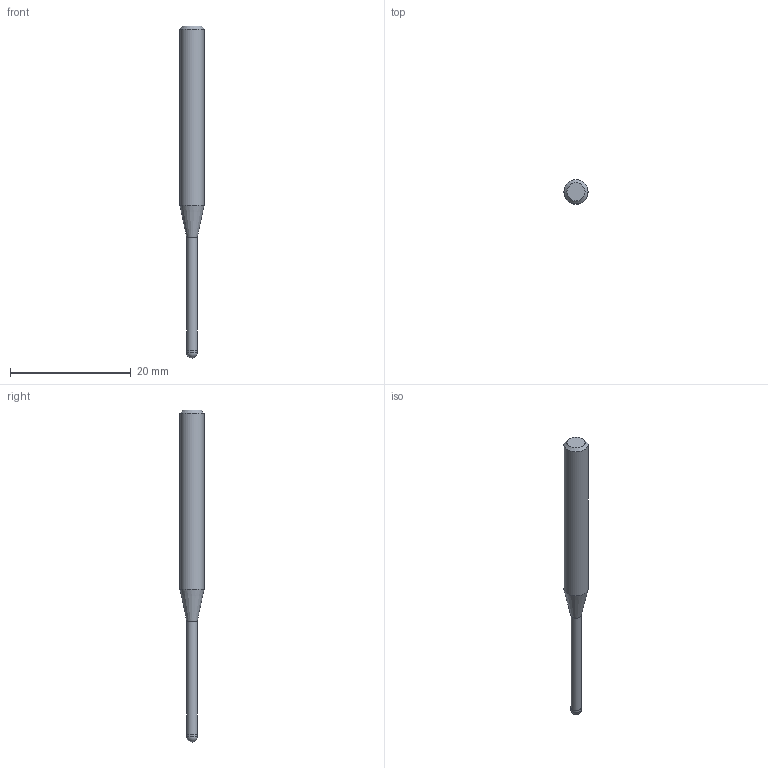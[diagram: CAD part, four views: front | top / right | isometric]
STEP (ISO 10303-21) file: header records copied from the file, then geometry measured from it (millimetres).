
FILE_DESCRIPTION((''),'2;1');
FILE_NAME('C:\Users\nsx150\AppData\Local\Temp\Mastercam 2021\3SYKECWX22\TEMP.step','2021-04-22T10:03:50',(''),(''),'STEP Write','Mastercam 2021 ... CNC Software, Inc.','');
FILE_SCHEMA(('AUTOMOTIVE_DESIGN'));
Length unit declared in the file: millimetre
Products named in the file (1): None
Bounding box: 4 x 4 x 55 mm (x, y, z)
Volume: 455.5 mm3; surface area: 545.9 mm2
Topology: 2 solids, 2 shells, 9 faces, 14 edges, 8 vertices
Faces by surface type: plane 3, cylinder 3, cone 2, sphere 1
Full cylindrical faces by diameter (mm): 1.75 x1, 1.8 x1, 4 x1
Entity records: 211 total; most frequent: DIRECTION 36, CARTESIAN_POINT 25, AXIS2_PLACEMENT_3D 18, ORIENTED_EDGE 14, EDGE_LOOP 14, STYLED_ITEM 12, ADVANCED_FACE 9, FACE_BOUND 8
